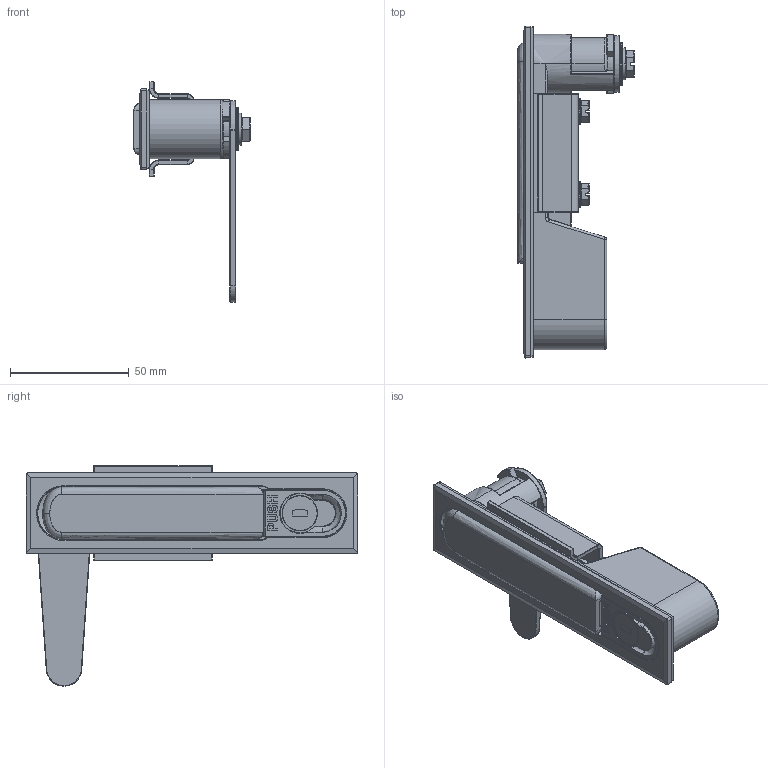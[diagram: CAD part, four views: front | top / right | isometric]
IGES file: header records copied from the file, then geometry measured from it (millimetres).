
Start section: SolidWorks IGES file using analytic representation for surfaces
Global section: file name: D:\尚坤工业图纸\SK1--门锁系列\SK1-023\SK1-023.IGS; native system: SolidWorks 2015; preprocessor: SolidWorks 2015; author: admin; date: 181101.102427; units: millimetre
Bounding box: 49 x 140 x 93 mm (x, y, z)
Surface area: 59094.2 mm2 (no closed solid volume)
Topology: 0 solids, 0 shells, 2137 faces, 19195 edges, 19051 vertices
Faces by surface type: revolution 1160, bspline 977
